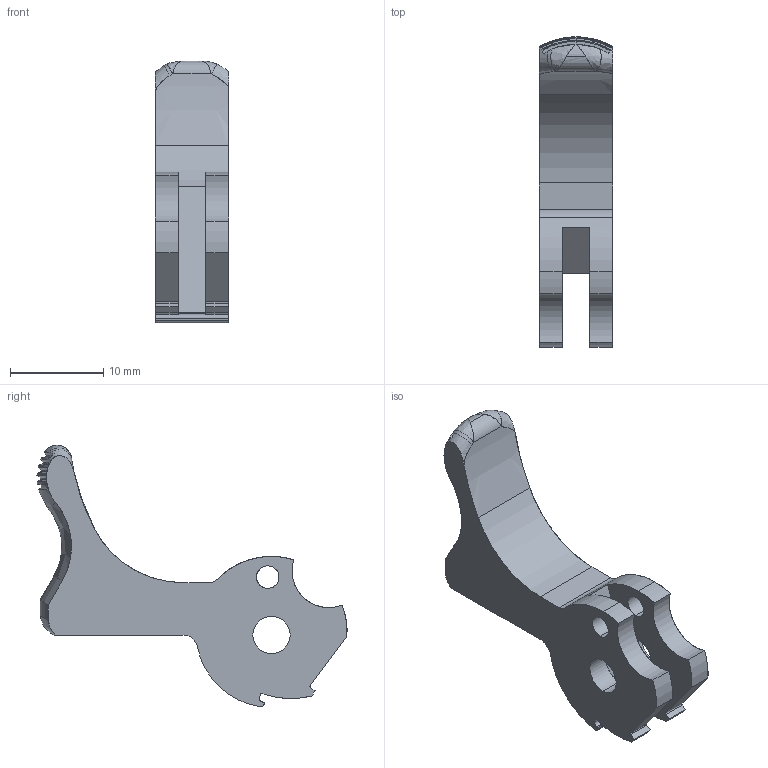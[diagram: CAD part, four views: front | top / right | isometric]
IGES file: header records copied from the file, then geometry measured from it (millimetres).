
Start section: SolidWorks IGES file using analytic representation for surfaces
Global section: file name: \\PSSILO\catalogs\CONTENTCENTRAL\Original Spur Hammer\Cache\77E68BF9-A41F-4630-AC25-B2B6F04B9057.IGS; native system: SolidWorks 2009; preprocessor: SolidWorks 2009; author: partstream; date: 090731.225118; units: inch
Bounding box: 7.85 x 33.33 x 28.13 mm (x, y, z)
Surface area: 1754.4 mm2 (no closed solid volume)
Topology: 0 solids, 0 shells, 97 faces, 1075 edges, 1074 vertices
Faces by surface type: revolution 50, bspline 47
